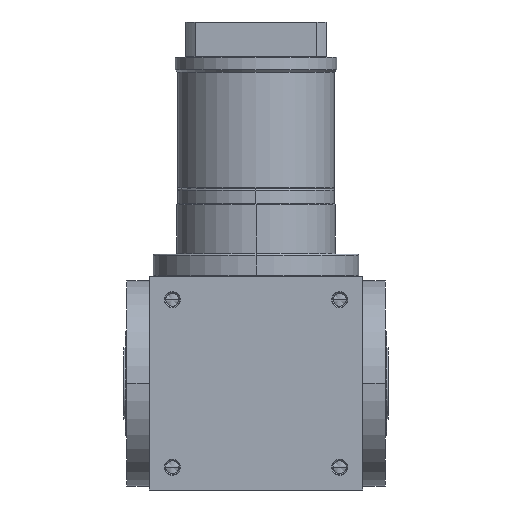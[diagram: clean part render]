
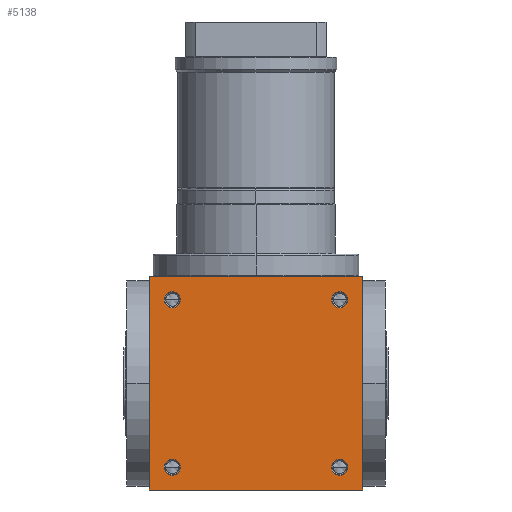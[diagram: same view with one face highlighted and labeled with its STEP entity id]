
A CAD part, front view. The second image highlights one B-rep face of the part: STEP entity #5138.
In plain terms, the highlighted planar face has unit normal (0, -1, 0).
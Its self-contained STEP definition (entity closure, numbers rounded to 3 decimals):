
#1045=DIRECTION('',(1.,0.,0.));
#1046=VECTOR('',#1045,140.);
#1047=CARTESIAN_POINT('',(-70.,-70.,-70.));
#1048=LINE('',#1047,#1046);
#1195=DIRECTION('',(0.,0.,1.));
#1196=VECTOR('',#1195,140.);
#1197=CARTESIAN_POINT('',(70.,-70.,-70.));
#1198=LINE('',#1197,#1196);
#1249=DIRECTION('',(0.,0.,1.));
#1250=VECTOR('',#1249,140.);
#1251=CARTESIAN_POINT('',(-70.,-70.,-70.));
#1252=LINE('',#1251,#1250);
#1253=CARTESIAN_POINT('',(55.,-70.,55.));
#1254=DIRECTION('',(0.,1.,0.));
#1255=DIRECTION('',(-1.,0.,0.));
#1256=AXIS2_PLACEMENT_3D('',#1253,#1254,#1255);
#1258=CARTESIAN_POINT('',(55.,-70.,55.));
#1259=DIRECTION('',(0.,1.,0.));
#1260=DIRECTION('',(1.,0.,0.));
#1261=AXIS2_PLACEMENT_3D('',#1258,#1259,#1260);
#1263=CARTESIAN_POINT('',(-55.,-70.,55.));
#1264=DIRECTION('',(0.,1.,0.));
#1265=DIRECTION('',(-1.,0.,0.));
#1266=AXIS2_PLACEMENT_3D('',#1263,#1264,#1265);
#1268=CARTESIAN_POINT('',(-55.,-70.,55.));
#1269=DIRECTION('',(0.,1.,0.));
#1270=DIRECTION('',(1.,0.,0.));
#1271=AXIS2_PLACEMENT_3D('',#1268,#1269,#1270);
#1273=CARTESIAN_POINT('',(55.,-70.,-55.));
#1274=DIRECTION('',(0.,1.,0.));
#1275=DIRECTION('',(-1.,0.,0.));
#1276=AXIS2_PLACEMENT_3D('',#1273,#1274,#1275);
#1278=CARTESIAN_POINT('',(55.,-70.,-55.));
#1279=DIRECTION('',(0.,1.,0.));
#1280=DIRECTION('',(1.,0.,0.));
#1281=AXIS2_PLACEMENT_3D('',#1278,#1279,#1280);
#1283=CARTESIAN_POINT('',(-55.,-70.,-55.));
#1284=DIRECTION('',(0.,1.,0.));
#1285=DIRECTION('',(-1.,0.,0.));
#1286=AXIS2_PLACEMENT_3D('',#1283,#1284,#1285);
#1288=CARTESIAN_POINT('',(-55.,-70.,-55.));
#1289=DIRECTION('',(0.,1.,0.));
#1290=DIRECTION('',(1.,0.,0.));
#1291=AXIS2_PLACEMENT_3D('',#1288,#1289,#1290);
#1305=DIRECTION('',(1.,0.,0.));
#1306=VECTOR('',#1305,140.);
#1307=CARTESIAN_POINT('',(-70.,-70.,70.));
#1308=LINE('',#1307,#1306);
#4332=CARTESIAN_POINT('',(-70.,-70.,-70.));
#4334=VERTEX_POINT('',#4332);
#4335=CARTESIAN_POINT('',(70.,-70.,-70.));
#4336=VERTEX_POINT('',#4335);
#4340=CARTESIAN_POINT('',(-70.,-70.,70.));
#4342=VERTEX_POINT('',#4340);
#4343=CARTESIAN_POINT('',(70.,-70.,70.));
#4344=VERTEX_POINT('',#4343);
#4507=CARTESIAN_POINT('',(49.75,-70.,55.));
#4508=CARTESIAN_POINT('',(60.25,-70.,55.));
#4509=VERTEX_POINT('',#4507);
#4510=VERTEX_POINT('',#4508);
#4515=CARTESIAN_POINT('',(-60.25,-70.,55.));
#4516=CARTESIAN_POINT('',(-49.75,-70.,55.));
#4517=VERTEX_POINT('',#4515);
#4518=VERTEX_POINT('',#4516);
#4523=CARTESIAN_POINT('',(49.75,-70.,-55.));
#4524=CARTESIAN_POINT('',(60.25,-70.,-55.));
#4525=VERTEX_POINT('',#4523);
#4526=VERTEX_POINT('',#4524);
#4531=CARTESIAN_POINT('',(-60.25,-70.,-55.));
#4532=CARTESIAN_POINT('',(-49.75,-70.,-55.));
#4533=VERTEX_POINT('',#4531);
#4534=VERTEX_POINT('',#4532);
#5102=CARTESIAN_POINT('',(-70.,-70.,-70.));
#5103=DIRECTION('',(0.,-1.,0.));
#5104=DIRECTION('',(1.,0.,0.));
#5105=AXIS2_PLACEMENT_3D('',#5102,#5103,#5104);
#5106=PLANE('',#5105);
#5107=ORIENTED_EDGE('',*,*,#4942,.F.);
#5108=ORIENTED_EDGE('',*,*,#4985,.T.);
#5110=ORIENTED_EDGE('',*,*,#5109,.T.);
#5111=ORIENTED_EDGE('',*,*,#5064,.F.);
#5112=EDGE_LOOP('',(#5107,#5108,#5110,#5111));
#5113=FACE_OUTER_BOUND('',#5112,.F.);
#5115=ORIENTED_EDGE('',*,*,#5114,.F.);
#5117=ORIENTED_EDGE('',*,*,#5116,.F.);
#5118=EDGE_LOOP('',(#5115,#5117));
#5119=FACE_BOUND('',#5118,.F.);
#5121=ORIENTED_EDGE('',*,*,#5120,.F.);
#5123=ORIENTED_EDGE('',*,*,#5122,.F.);
#5124=EDGE_LOOP('',(#5121,#5123));
#5125=FACE_BOUND('',#5124,.F.);
#5127=ORIENTED_EDGE('',*,*,#5126,.F.);
#5129=ORIENTED_EDGE('',*,*,#5128,.F.);
#5130=EDGE_LOOP('',(#5127,#5129));
#5131=FACE_BOUND('',#5130,.F.);
#5133=ORIENTED_EDGE('',*,*,#5132,.F.);
#5135=ORIENTED_EDGE('',*,*,#5134,.F.);
#5136=EDGE_LOOP('',(#5133,#5135));
#5137=FACE_BOUND('',#5136,.F.);
#5138=ADVANCED_FACE('',(#5113,#5119,#5125,#5131,#5137),#5106,.T.);
#1257=CIRCLE('',#1256,5.25);
#1262=CIRCLE('',#1261,5.25);
#1267=CIRCLE('',#1266,5.25);
#1272=CIRCLE('',#1271,5.25);
#1277=CIRCLE('',#1276,5.25);
#1282=CIRCLE('',#1281,5.25);
#1287=CIRCLE('',#1286,5.25);
#1292=CIRCLE('',#1291,5.25);
#4942=EDGE_CURVE('',#4334,#4336,#1048,.T.);
#4985=EDGE_CURVE('',#4334,#4342,#1252,.T.);
#5064=EDGE_CURVE('',#4336,#4344,#1198,.T.);
#5109=EDGE_CURVE('',#4342,#4344,#1308,.T.);
#5114=EDGE_CURVE('',#4509,#4510,#1257,.T.);
#5116=EDGE_CURVE('',#4510,#4509,#1262,.T.);
#5120=EDGE_CURVE('',#4517,#4518,#1267,.T.);
#5122=EDGE_CURVE('',#4518,#4517,#1272,.T.);
#5126=EDGE_CURVE('',#4525,#4526,#1277,.T.);
#5128=EDGE_CURVE('',#4526,#4525,#1282,.T.);
#5132=EDGE_CURVE('',#4533,#4534,#1287,.T.);
#5134=EDGE_CURVE('',#4534,#4533,#1292,.T.);
